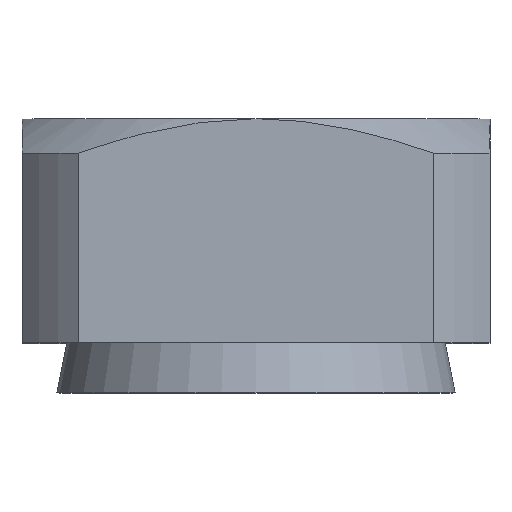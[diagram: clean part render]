
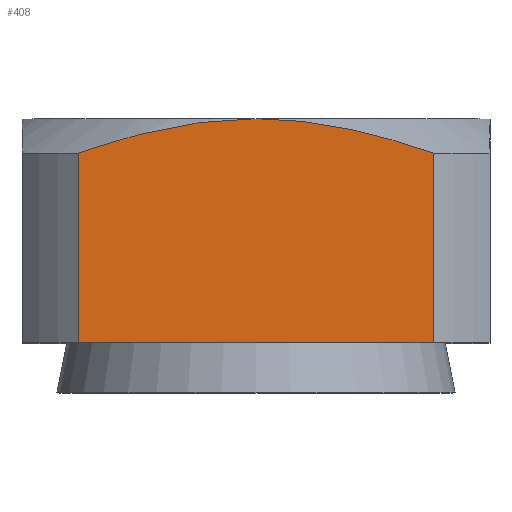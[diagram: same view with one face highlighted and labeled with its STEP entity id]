
A CAD part, top view. The second image highlights one B-rep face of the part: STEP entity #408.
In plain terms, the highlighted planar face has unit normal (0, 0, 1).
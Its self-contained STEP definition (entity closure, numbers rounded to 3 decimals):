
#19=(
BOUNDED_CURVE()
B_SPLINE_CURVE(2,(#738,#739,#740),.UNSPECIFIED.,.F.,.F.)
B_SPLINE_CURVE_WITH_KNOTS((3,3),(0.971,1.746),
 .UNSPECIFIED.)
CURVE()
GEOMETRIC_REPRESENTATION_ITEM()
RATIONAL_B_SPLINE_CURVE((1.,1.079,1.032))
REPRESENTATION_ITEM('')
);
#21=(
BOUNDED_CURVE()
B_SPLINE_CURVE(2,(#750,#751,#752),.UNSPECIFIED.,.F.,.F.)
B_SPLINE_CURVE_WITH_KNOTS((3,3),(0.197,0.971),
 .UNSPECIFIED.)
CURVE()
GEOMETRIC_REPRESENTATION_ITEM()
RATIONAL_B_SPLINE_CURVE((1.032,1.079,1.))
REPRESENTATION_ITEM('')
);
#36=PLANE('',#488);
#67=FACE_OUTER_BOUND('',#95,.T.);
#95=EDGE_LOOP('',(#367,#368,#369,#370,#371));
#106=LINE('',#680,#124);
#111=LINE('',#707,#129);
#114=LINE('',#716,#132);
#124=VECTOR('',#552,10.);
#129=VECTOR('',#585,10.);
#132=VECTOR('',#594,10.);
#179=VERTEX_POINT('',#665);
#186=VERTEX_POINT('',#678);
#194=VERTEX_POINT('',#705);
#197=VERTEX_POINT('',#715);
#201=VERTEX_POINT('',#737);
#229=EDGE_CURVE('',#186,#179,#106,.T.);
#242=EDGE_CURVE('',#186,#194,#111,.T.);
#246=EDGE_CURVE('',#197,#179,#114,.T.);
#253=EDGE_CURVE('',#201,#197,#19,.T.);
#258=EDGE_CURVE('',#194,#201,#21,.T.);
#367=ORIENTED_EDGE('',*,*,#246,.T.);
#368=ORIENTED_EDGE('',*,*,#229,.F.);
#369=ORIENTED_EDGE('',*,*,#242,.T.);
#370=ORIENTED_EDGE('',*,*,#258,.T.);
#371=ORIENTED_EDGE('',*,*,#253,.T.);
#408=ADVANCED_FACE('',(#67),#36,.T.);
#488=AXIS2_PLACEMENT_3D('',#759,#620,#621);
#552=DIRECTION('',(-1.,0.,0.));
#585=DIRECTION('',(0.,1.,0.));
#594=DIRECTION('',(0.,-1.,0.));
#620=DIRECTION('center_axis',(0.,0.,1.));
#621=DIRECTION('ref_axis',(-1.,0.,0.));
#665=CARTESIAN_POINT('',(-7.133,-9.,9.4));
#678=CARTESIAN_POINT('',(7.133,-9.,9.4));
#680=CARTESIAN_POINT('',(-9.4,-9.,9.4));
#705=CARTESIAN_POINT('',(7.133,-1.386,9.4));
#707=CARTESIAN_POINT('',(7.133,-4.5,9.4));
#715=CARTESIAN_POINT('',(-7.133,-1.386,9.4));
#716=CARTESIAN_POINT('',(-7.133,-4.5,9.4));
#737=CARTESIAN_POINT('',(0.,0.,9.4));
#738=CARTESIAN_POINT('Ctrl Pts',(0.,0.,
9.4));
#739=CARTESIAN_POINT('Ctrl Pts',(-3.163,0.,
9.4));
#740=CARTESIAN_POINT('Ctrl Pts',(-7.133,-1.386,9.4));
#750=CARTESIAN_POINT('Ctrl Pts',(7.133,-1.386,9.4));
#751=CARTESIAN_POINT('Ctrl Pts',(3.163,0.,
9.4));
#752=CARTESIAN_POINT('Ctrl Pts',(0.,0.,
9.4));
#759=CARTESIAN_POINT('Origin',(9.4,0.,9.4));
